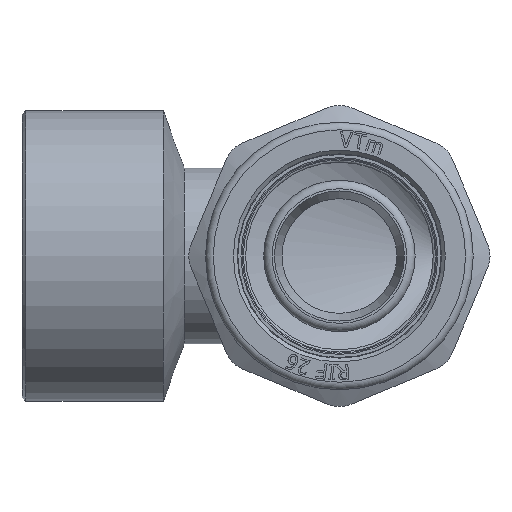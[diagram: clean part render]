
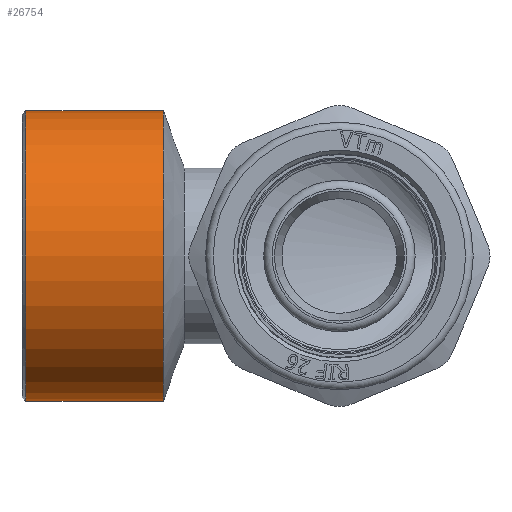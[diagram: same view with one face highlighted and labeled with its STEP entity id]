
A CAD part, left-side view. The second image highlights one B-rep face of the part: STEP entity #26754.
In plain terms, the highlighted cylindrical face has radius 19 mm (diameter 38 mm), a full revolution.
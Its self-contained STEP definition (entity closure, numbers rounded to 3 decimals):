
#2732=FACE_OUTER_BOUND('',#4267,.T.);
#4267=EDGE_LOOP('',(#24446,#24447,#24448,#24449,#24450,#24451));
#4684=CIRCLE('',#27719,19.);
#4685=CIRCLE('',#27720,19.);
#4686=CIRCLE('',#27722,19.);
#4687=CIRCLE('',#27723,19.);
#8412=LINE('',#63546,#10149);
#10149=VECTOR('',#31502,19.);
#12691=VERTEX_POINT('',#63536);
#12692=VERTEX_POINT('',#63537);
#12693=VERTEX_POINT('',#63542);
#12694=VERTEX_POINT('',#63543);
#16679=EDGE_CURVE('',#12691,#12692,#4684,.T.);
#16680=EDGE_CURVE('',#12692,#12691,#4685,.T.);
#16682=EDGE_CURVE('',#12693,#12694,#4686,.T.);
#16683=EDGE_CURVE('',#12694,#12693,#4687,.T.);
#16684=EDGE_CURVE('',#12694,#12692,#8412,.T.);
#24446=ORIENTED_EDGE('',*,*,#16682,.F.);
#24447=ORIENTED_EDGE('',*,*,#16683,.F.);
#24448=ORIENTED_EDGE('',*,*,#16684,.T.);
#24449=ORIENTED_EDGE('',*,*,#16680,.T.);
#24450=ORIENTED_EDGE('',*,*,#16679,.T.);
#24451=ORIENTED_EDGE('',*,*,#16684,.F.);
#25402=CYLINDRICAL_SURFACE('',#27721,19.);
#26754=ADVANCED_FACE('',(#2732),#25402,.T.);
#27719=AXIS2_PLACEMENT_3D('',#63538,#31491,#31492);
#27720=AXIS2_PLACEMENT_3D('',#63539,#31493,#31494);
#27721=AXIS2_PLACEMENT_3D('',#63541,#31496,#31497);
#27722=AXIS2_PLACEMENT_3D('',#63544,#31498,#31499);
#27723=AXIS2_PLACEMENT_3D('',#63545,#31500,#31501);
#31491=DIRECTION('center_axis',(0.,-1.,0.));
#31492=DIRECTION('ref_axis',(1.,0.,0.));
#31493=DIRECTION('center_axis',(0.,-1.,0.));
#31494=DIRECTION('ref_axis',(1.,0.,0.));
#31496=DIRECTION('center_axis',(0.,-1.,0.));
#31497=DIRECTION('ref_axis',(1.,0.,0.));
#31498=DIRECTION('center_axis',(0.,-1.,0.));
#31499=DIRECTION('ref_axis',(1.,0.,0.));
#31500=DIRECTION('center_axis',(0.,-1.,0.));
#31501=DIRECTION('ref_axis',(1.,0.,0.));
#31502=DIRECTION('',(0.,1.,0.));
#63536=CARTESIAN_POINT('',(19.,41.,0.));
#63537=CARTESIAN_POINT('',(-19.,41.,0.));
#63538=CARTESIAN_POINT('Origin',(0.,41.,0.));
#63539=CARTESIAN_POINT('Origin',(0.,41.,0.));
#63541=CARTESIAN_POINT('Origin',(0.,32.,0.));
#63542=CARTESIAN_POINT('',(19.,23.,0.));
#63543=CARTESIAN_POINT('',(-19.,23.,0.));
#63544=CARTESIAN_POINT('Origin',(0.,23.,0.));
#63545=CARTESIAN_POINT('Origin',(0.,23.,0.));
#63546=CARTESIAN_POINT('',(-19.,32.,0.));
